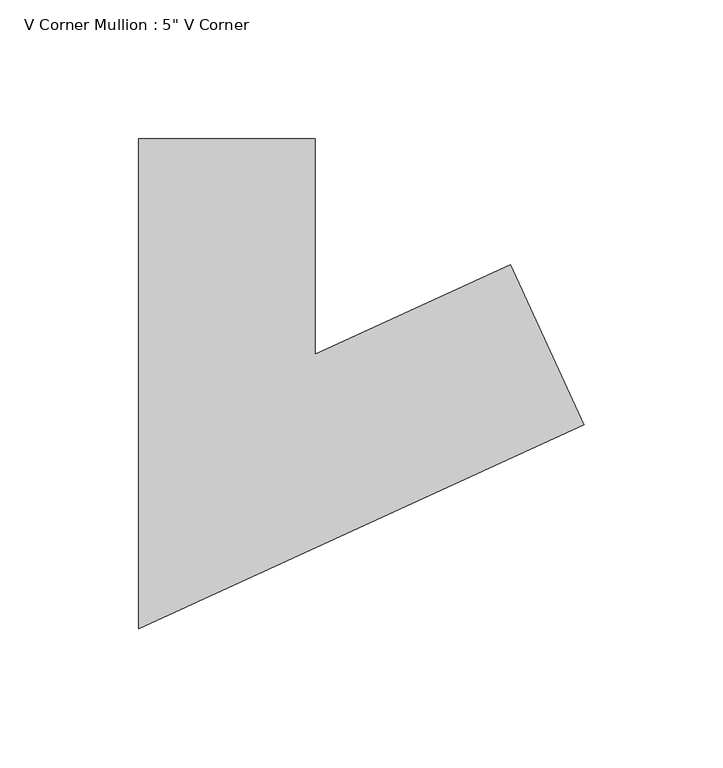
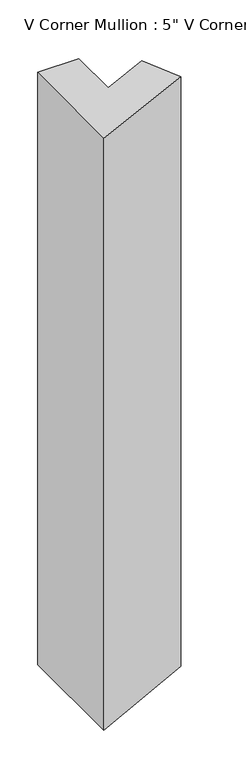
"""IFC4 building model written with IfcOpenShell, lengths in millimetres: member geometry."""

from ifc_helpers import new_model, si_unit, origin, place, context, project, spatial, faceted_brep, source, transform, mapped, element, save


def member_20d2be33(model_context):
    return source(origin(), model_context, "Body", "Brep", [
        faceted_brep([(61.49523, 18.2208415, -0.3120644), (87.9205542, -39.5195451, -0.4461626), (87.9205542, -39.5195451, -958.1980977), (61.49523, 18.2208415, -958.8342729), (-9.0228811, -14.0523047, 0.0457876), (-9.0228811, -14.0523047, -960.5319578), (-9.0228811, 63.5, 0.0457876), (-9.0228811, 63.5, -960.5319578), (-72.5228811, 63.5, 0.3680254), (-72.5228811, 63.5, -962.0606855), (-72.5228811, -112.9476953, 0.3680254), (-72.5228811, -112.9476953, -962.0606855)], [[[0, 1, 2, 3]], [[4, 0, 3, 5]], [[6, 4, 5, 7]], [[8, 6, 7, 9]], [[10, 8, 9, 11]], [[1, 10, 11, 2]], [[1, 0, 4, 6, 8, 10]], [[2, 11, 9, 7, 5, 3]]]),
    ])


if __name__ == "__main__":
    model = new_model("IFC4")
    model_context = context("Model", 3, world=origin())
    ifc_project = project(units=[si_unit("LENGTHUNIT", "METRE", prefix="MILLI")], contexts=[model_context])
    site = spatial("IfcSite", under=ifc_project)
    building = spatial("IfcBuilding", under=site)
    placement = place(None, origin())
    member_shape = member_20d2be33(model_context)
    element("IfcMember", 1, ObjectType="V Corner Mullion : 5\" V Corner", at=placement, inside=building, context=model_context, shape_type="MappedRepresentation", body=[
        mapped(member_shape, transform((0.0, 0.0, 0.0), x_axis=(1.0, 0.0, 0.0), y_axis=(0.0, 1.0, 0.0), z_axis=(0.0, 0.0, 1.0))),
    ])
    save(model, "model.ifc")
